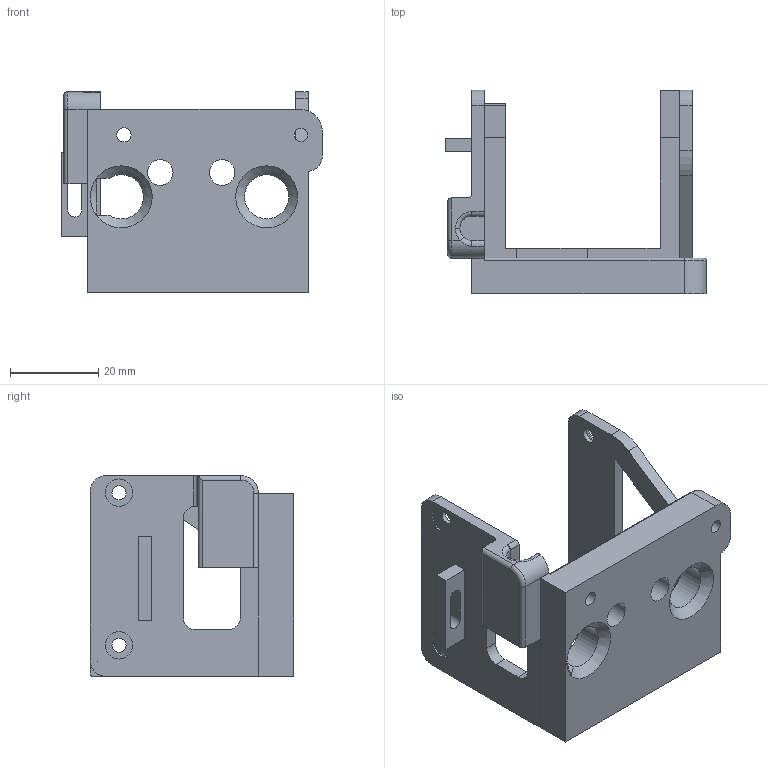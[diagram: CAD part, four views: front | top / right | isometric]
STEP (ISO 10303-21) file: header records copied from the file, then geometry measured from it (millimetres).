
FILE_DESCRIPTION(/* description */ (''),/* implementation_level */ '2;1');
FILE_NAME(/* name */ 'D:/Down/Druck/MountV42.step',/* time_stamp */ '2022-02-09T16:28:51+07:00',/* author */ (''),/* organization */ (''),/* preprocessor_version */ 'ST-DEVELOPER v18.1',/* originating_system */ 'Autodesk Translation Framework v10.13.0.1454',/* authorisation */ '');
FILE_SCHEMA (('AUTOMOTIVE_DESIGN { 1 0 10303 214 3 1 1 }'));
Length unit declared in the file: millimetre
Products named in the file (1): Mount (1)
Bounding box: 58.9 x 46.01 x 45.38 mm (x, y, z)
Volume: 24278.6 mm3; surface area: 14056.6 mm2
Topology: 1 solids, 1 shells, 134 faces, 374 edges, 242 vertices
Faces by surface type: plane 72, cylinder 49, cone 6, torus 6, bspline 1
Full cylindrical faces by diameter (mm): 3 x1, 3.2 x5, 5.8 x2, 6.2 x4, 7.2 x1, 7.5 x2, 10 x1
Entity records: 4437 total; most frequent: CARTESIAN_POINT 819, ORIENTED_EDGE 748, DIRECTION 745, EDGE_CURVE 374, LINE 253, VECTOR 253, AXIS2_PLACEMENT_3D 246, VERTEX_POINT 242
